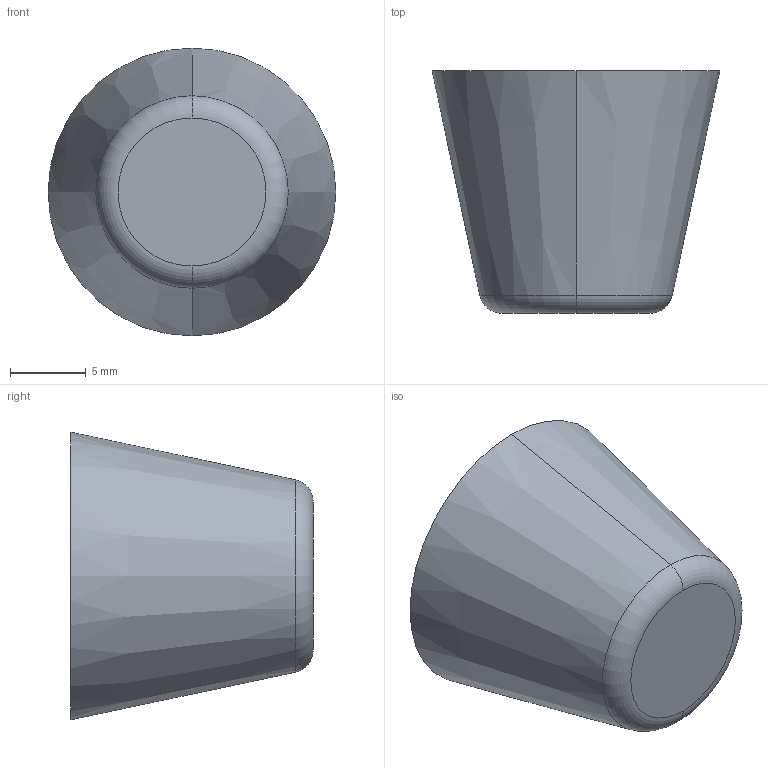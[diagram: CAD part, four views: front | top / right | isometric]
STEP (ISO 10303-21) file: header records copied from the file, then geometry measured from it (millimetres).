
FILE_DESCRIPTION (( 'STEP AP214' ), '1' );
FILE_NAME ('253-19-M5-70.step', '2023-03-24T07:37:08', ( '' ), ( '' ), 'SwSTEP 2.0', 'SolidWorks 2022', '' );
FILE_SCHEMA (( 'AUTOMOTIVE_DESIGN' ));
Length unit declared in the file: millimetre
Products named in the file (1): 253-19-M5-70
Bounding box: 19 x 16 x 19 mm (x, y, z)
Volume: 3005.8 mm3; surface area: 1268.1 mm2
Topology: 1 solids, 1 shells, 16 faces, 32 edges, 19 vertices
Faces by surface type: cone 6, cylinder 4, plane 4, torus 2
Entity records: 554 total; most frequent: DIRECTION 84, CARTESIAN_POINT 66, ORIENTED_EDGE 60, AXIS2_PLACEMENT_3D 37, EDGE_CURVE 30, CIRCLE 20, VERTEX_POINT 19, EDGE_LOOP 19
